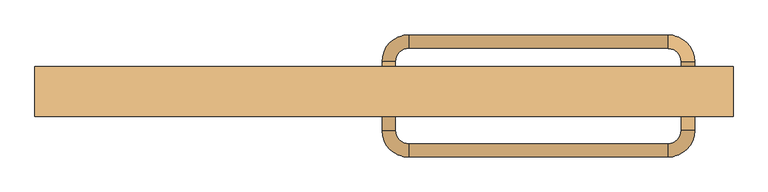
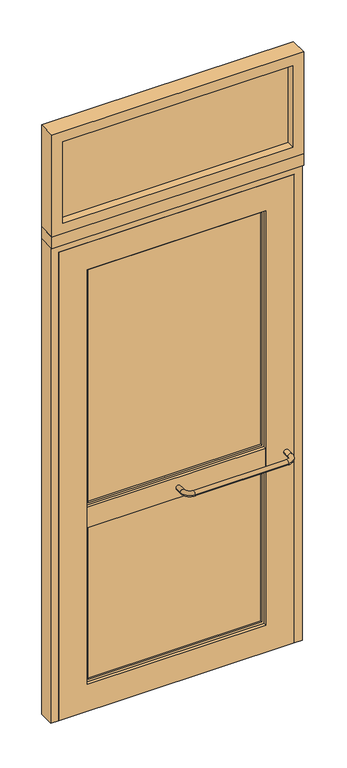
"""IFC4 building model written with IfcOpenShell, lengths in millimetres: door geometry, A3 Puerta batiente exterior VF superior : A3.2 Puerta batiente simple-exterior 105X260."""

from ifc_helpers import new_model, si_unit, point, frame, origin, place, context, project, spatial, polyline, circle_curve, ellipse_curve, trimmed, outline, extrude, source, transform, mapped, element, save
from ifc_brep_helpers import plane_surface, cylinder_surface, revolved_surface, advanced_brep


def door_3bfb12fa(model_context):
    return source(origin(), model_context, "Body", "SolidModel", [
        advanced_brep(
        [(17.0, 11.0, 855.0), (-3.0, 11.0, 855.0), (17.0, 41.0, 855.0), (-3.0, 41.0, 855.0), (37.0, 61.0, 855.0), (37.0, 81.0, 855.0), (427.0, 61.0, 855.0), (427.0, 81.0, 855.0), (447.0, 41.0, 855.0), (467.0, 41.0, 855.0), (447.0, 11.0, 855.0), (467.0, 11.0, 855.0)],
        [
            (0, 1, circle_curve(frame((7.0, 11.0, 855.0), z_axis=(0.0, -1.0, 0.0), x_axis=(-1.0, 0.0, 0.0)), 10.0)),
            (1, 0, circle_curve(frame((7.0, 11.0, 855.0), z_axis=(0.0, -1.0, 0.0), x_axis=(-1.0, 0.0, 0.0)), 10.0)),
            (0, 2),
            (2, 3, circle_curve(frame((7.0, 41.0, 855.0), z_axis=(0.0, -1.0, 0.0), x_axis=(-1.0, 0.0, 0.0)), 10.0)),
            (3, 1),
            (3, 2, circle_curve(frame((7.0, 41.0, 855.0), z_axis=(0.0, -1.0, 0.0), x_axis=(-1.0, 0.0, 0.0)), 10.0)),
            (4, 5, circle_curve(frame((37.0, 71.0, 855.0), z_axis=(-1.0, 0.0, 0.0), x_axis=(0.0, 1.0, 0.0)), 10.0)),
            (5, 3, circle_curve(frame((37.0, 41.0, 855.0), z_axis=(0.0, 0.0, 1.0), x_axis=(-1.0, 0.0, 0.0)), 40.0)),
            (2, 4, circle_curve(frame((37.0, 41.0, 855.0), z_axis=(0.0, 0.0, -1.0), x_axis=(-1.0, 0.0, 0.0)), 20.0)),
            (5, 4, circle_curve(frame((37.0, 71.0, 855.0), z_axis=(-1.0, 0.0, 0.0), x_axis=(0.0, 1.0, 0.0)), 10.0)),
            (4, 6),
            (6, 7, circle_curve(frame((427.0, 71.0, 855.0), z_axis=(-1.0, 0.0, 0.0), x_axis=(0.0, 1.0, 0.0)), 10.0)),
            (7, 5),
            (7, 6, circle_curve(frame((427.0, 71.0, 855.0), z_axis=(-1.0, 0.0, 0.0), x_axis=(0.0, 1.0, 0.0)), 10.0)),
            (8, 9, circle_curve(frame((457.0, 41.0, 855.0), z_axis=(0.0, 1.0, 0.0), x_axis=(1.0, 0.0, 0.0)), 10.0)),
            (9, 7, circle_curve(frame((427.0, 41.0, 855.0), z_axis=(0.0, 0.0, 1.0), x_axis=(0.0, 1.0, 0.0)), 40.0)),
            (6, 8, circle_curve(frame((427.0, 41.0, 855.0), z_axis=(0.0, 0.0, -1.0), x_axis=(0.0, 1.0, 0.0)), 20.0)),
            (9, 8, circle_curve(frame((457.0, 41.0, 855.0), z_axis=(0.0, 1.0, 0.0), x_axis=(1.0, 0.0, 0.0)), 10.0)),
            (10, 11, circle_curve(frame((457.0, 11.0, 855.0), z_axis=(0.0, -1.0, 0.0), x_axis=(1.0, 0.0, 0.0)), 10.0)),
            (11, 10, circle_curve(frame((457.0, 11.0, 855.0), z_axis=(0.0, -1.0, 0.0), x_axis=(1.0, 0.0, 0.0)), 10.0)),
            (8, 10),
            (11, 9),
        ],
        [
            plane_surface(frame((7.0, 11.0, 855.0), z_axis=(0.0, -1.0, 0.0), x_axis=(0.0, 0.0, 1.0))),
            cylinder_surface(frame((7.0, 11.0, 855.0), z_axis=(0.0, -1.0, 0.0), x_axis=(-1.0, 0.0, 0.0)), 10.0),
            revolved_surface(trimmed(ellipse_curve(frame((7.0, 41.0, 855.0), z_axis=(0.0, 1.0, 0.0), x_axis=(-1.0, 0.0, 0.0)), 10.0, 10.0), [point((-3.0, 41.0, 855.0))], [point((17.0, 41.0, 855.0))], True, "CARTESIAN"), (37.0, 41.0, 855.0), (0.0, 0.0, 1.0)),
            revolved_surface(trimmed(ellipse_curve(frame((7.0, 41.0, 855.0), z_axis=(0.0, 1.0, 0.0), x_axis=(-1.0, 0.0, 0.0)), 10.0, 10.0), [point((17.0, 41.0, 855.0))], [point((-3.0, 41.0, 855.0))], True, "CARTESIAN"), (37.0, 41.0, 855.0), (0.0, 0.0, 1.0)),
            cylinder_surface(frame((37.0, 71.0, 855.0), z_axis=(-1.0, 0.0, 0.0), x_axis=(0.0, 1.0, 0.0)), 10.0),
            revolved_surface(trimmed(ellipse_curve(frame((427.0, 71.0, 855.0), z_axis=(1.0, 0.0, 0.0), x_axis=(0.0, 1.0, 0.0)), 10.0, 10.0), [point((427.0, 81.0, 855.0))], [point((427.0, 61.0, 855.0))], True, "CARTESIAN"), (427.0, 41.0, 855.0), (0.0, 0.0, 1.0)),
            revolved_surface(trimmed(ellipse_curve(frame((427.0, 71.0, 855.0), z_axis=(1.0, 0.0, 0.0), x_axis=(0.0, 1.0, 0.0)), 10.0, 10.0), [point((427.0, 61.0, 855.0))], [point((427.0, 81.0, 855.0))], True, "CARTESIAN"), (427.0, 41.0, 855.0), (0.0, 0.0, 1.0)),
            plane_surface(frame((457.0, 11.0, 855.0), z_axis=(0.0, -1.0, 0.0), x_axis=(0.0, 0.0, 1.0))),
            cylinder_surface(frame((457.0, 41.0, 855.0), z_axis=(0.0, 1.0, 0.0), x_axis=(1.0, 0.0, 0.0)), 10.0),
        ],
        [
            (0, [[1, 2]]),
            (1, [[3, 4, 5, -1]]),
            (1, [[-5, 6, -3, -2]]),
            (2, [[7, 8, -4, 9]]),
            (3, [[10, -9, -6, -8]]),
            (4, [[11, 12, 13, -7]]),
            (4, [[-13, 14, -11, -10]]),
            (5, [[15, 16, -12, 17]]),
            (6, [[18, -17, -14, -16]]),
            (7, [[19, 20]]),
            (8, [[21, -20, 22, -15]]),
            (8, [[-22, -19, -21, -18]]),
        ],
    ),
        advanced_brep(
        [(17.0, -33.0, 855.0), (-3.0, -33.0, 855.0), (-3.0, -63.0, 855.0), (17.0, -63.0, 855.0), (37.0, -83.0, 855.0), (37.0, -103.0, 855.0), (427.0, -103.0, 855.0), (427.0, -83.0, 855.0), (447.0, -63.0, 855.0), (467.0, -63.0, 855.0), (447.0, -33.0, 855.0), (467.0, -33.0, 855.0)],
        [
            (0, 1, circle_curve(frame((7.0, -33.0, 855.0), z_axis=(0.0, 1.0, 0.0), x_axis=(-1.0, 0.0, 0.0)), 10.0)),
            (1, 0, circle_curve(frame((7.0, -33.0, 855.0), z_axis=(0.0, 1.0, 0.0), x_axis=(-1.0, 0.0, 0.0)), 10.0)),
            (1, 2),
            (2, 3, circle_curve(frame((7.0, -63.0, 855.0), z_axis=(0.0, 1.0, 0.0), x_axis=(-1.0, 0.0, 0.0)), 10.0)),
            (3, 0),
            (3, 2, circle_curve(frame((7.0, -63.0, 855.0), z_axis=(0.0, 1.0, 0.0), x_axis=(-1.0, 0.0, 0.0)), 10.0)),
            (4, 3, circle_curve(frame((37.0, -63.0, 855.0), z_axis=(0.0, 0.0, -1.0), x_axis=(-1.0, 0.0, 0.0)), 20.0)),
            (2, 5, circle_curve(frame((37.0, -63.0, 855.0), z_axis=(0.0, 0.0, 1.0), x_axis=(-1.0, 0.0, 0.0)), 40.0)),
            (5, 4, circle_curve(frame((37.0, -93.0, 855.0), z_axis=(-1.0, 0.0, 0.0), x_axis=(0.0, -1.0, 0.0)), 10.0)),
            (4, 5, circle_curve(frame((37.0, -93.0, 855.0), z_axis=(-1.0, 0.0, 0.0), x_axis=(0.0, -1.0, 0.0)), 10.0)),
            (5, 6),
            (6, 7, circle_curve(frame((427.0, -93.0, 855.0), z_axis=(-1.0, 0.0, 0.0), x_axis=(0.0, -1.0, 0.0)), 10.0)),
            (7, 4),
            (7, 6, circle_curve(frame((427.0, -93.0, 855.0), z_axis=(-1.0, 0.0, 0.0), x_axis=(0.0, -1.0, 0.0)), 10.0)),
            (8, 7, circle_curve(frame((427.0, -63.0, 855.0), z_axis=(0.0, 0.0, -1.0), x_axis=(0.0, -1.0, 0.0)), 20.0)),
            (6, 9, circle_curve(frame((427.0, -63.0, 855.0), z_axis=(0.0, 0.0, 1.0), x_axis=(0.0, -1.0, 0.0)), 40.0)),
            (9, 8, circle_curve(frame((457.0, -63.0, 855.0), z_axis=(0.0, -1.0, 0.0), x_axis=(1.0, 0.0, 0.0)), 10.0)),
            (8, 9, circle_curve(frame((457.0, -63.0, 855.0), z_axis=(0.0, -1.0, 0.0), x_axis=(1.0, 0.0, 0.0)), 10.0)),
            (10, 11, circle_curve(frame((457.0, -33.0, 855.0), z_axis=(0.0, 1.0, 0.0), x_axis=(1.0, 0.0, 0.0)), 10.0)),
            (11, 10, circle_curve(frame((457.0, -33.0, 855.0), z_axis=(0.0, 1.0, 0.0), x_axis=(1.0, 0.0, 0.0)), 10.0)),
            (9, 11),
            (10, 8),
        ],
        [
            plane_surface(frame((7.0, -33.0, 855.0), z_axis=(0.0, 1.0, 0.0), x_axis=(0.0, 0.0, 1.0))),
            cylinder_surface(frame((7.0, -33.0, 855.0), z_axis=(0.0, 1.0, 0.0), x_axis=(-1.0, 0.0, 0.0)), 10.0),
            revolved_surface(trimmed(ellipse_curve(frame((7.0, -63.0, 855.0), z_axis=(0.0, 1.0, 0.0), x_axis=(-1.0, 0.0, 0.0)), 10.0, 10.0), [point((-3.0, -63.0, 855.0))], [point((17.0, -63.0, 855.0))], True, "CARTESIAN"), (37.0, -63.0, 855.0), (0.0, 0.0, 1.0)),
            revolved_surface(trimmed(ellipse_curve(frame((7.0, -63.0, 855.0), z_axis=(0.0, 1.0, 0.0), x_axis=(-1.0, 0.0, 0.0)), 10.0, 10.0), [point((17.0, -63.0, 855.0))], [point((-3.0, -63.0, 855.0))], True, "CARTESIAN"), (37.0, -63.0, 855.0), (0.0, 0.0, 1.0)),
            cylinder_surface(frame((37.0, -93.0, 855.0), z_axis=(-1.0, 0.0, 0.0), x_axis=(0.0, -1.0, 0.0)), 10.0),
            revolved_surface(trimmed(ellipse_curve(frame((427.0, -93.0, 855.0), z_axis=(-1.0, 0.0, 0.0), x_axis=(0.0, -1.0, 0.0)), 10.0, 10.0), [point((427.0, -103.0, 855.0))], [point((427.0, -83.0, 855.0))], True, "CARTESIAN"), (427.0, -63.0, 855.0), (0.0, 0.0, 1.0)),
            revolved_surface(trimmed(ellipse_curve(frame((427.0, -93.0, 855.0), z_axis=(-1.0, 0.0, 0.0), x_axis=(0.0, -1.0, 0.0)), 10.0, 10.0), [point((427.0, -83.0, 855.0))], [point((427.0, -103.0, 855.0))], True, "CARTESIAN"), (427.0, -63.0, 855.0), (0.0, 0.0, 1.0)),
            plane_surface(frame((457.0, -33.0, 855.0), z_axis=(0.0, 1.0, 0.0), x_axis=(0.0, 0.0, 1.0))),
            cylinder_surface(frame((457.0, -63.0, 855.0), z_axis=(0.0, -1.0, 0.0), x_axis=(1.0, 0.0, 0.0)), 10.0),
        ],
        [
            (0, [[1, 2]]),
            (1, [[-2, 3, 4, 5]]),
            (1, [[-1, -5, 6, -3]]),
            (2, [[7, -4, 8, 9]]),
            (3, [[-8, -6, -7, 10]]),
            (4, [[-9, 11, 12, 13]]),
            (4, [[-10, -13, 14, -11]]),
            (5, [[15, -12, 16, 17]]),
            (6, [[-16, -14, -15, 18]]),
            (7, [[19, 20]]),
            (8, [[-17, 21, -19, 22]]),
            (8, [[-18, -22, -20, -21]]),
        ],
    ),
        extrude(outline(polyline([(525.0, 33.0), (525.0, -42.0), (-525.0, -42.0), (-525.0, 33.0), (525.0, 33.0)])), frame((0.0, 0.0, 2100.0), z_axis=(0.0, 0.0, 1.0), x_axis=(1.0, 0.0, 0.0)), (0.0, 0.0, 1.0), 50.0),
        extrude(outline(polyline([(2100.0, 525.0), (2100.0, -525.0), (0.0, -525.0), (0.0, -492.0), (2067.0, -492.0), (2067.0, 492.0), (0.0, 492.0), (0.0, 525.0), (2100.0, 525.0)])), frame((0.0, -33.0, 0.0), z_axis=(0.0, 1.0, 0.0), x_axis=(0.0, 0.0, 1.0)), (0.0, 0.0, 1.0), 66.0),
        extrude(outline(polyline([(2067.0, -492.0), (0.0, -492.0), (0.0, 492.0), (2067.0, 492.0), (2067.0, -492.0)]), holes=[polyline([(1947.0, -372.0), (1947.0, 372.0), (120.0, 372.0), (120.0, -372.0), (1947.0, -372.0)])]), frame((0.0, -33.0, 0.0), z_axis=(0.0, 1.0, 0.0), x_axis=(0.0, 0.0, 1.0)), (0.0, 0.0, 1.0), 44.0),
        extrude(outline(polyline([(372.0, 11.0), (372.0, -33.0), (-372.0, -33.0), (-372.0, 11.0), (372.0, 11.0)])), frame((0.0, 0.0, 810.0), z_axis=(0.0, 0.0, 1.0), x_axis=(1.0, 0.0, 0.0)), (0.0, 0.0, 1.0), 90.0),
        extrude(outline(polyline([(1947.0, -372.0), (900.0, -372.0), (900.0, 372.0), (1947.0, 372.0), (1947.0, -372.0)]), holes=[polyline([(1937.0, -362.0), (1937.0, 362.0), (910.0, 362.0), (910.0, -362.0), (1937.0, -362.0)])]), frame((0.0, -21.0, 0.0), z_axis=(0.0, 1.0, 0.0), x_axis=(0.0, 0.0, 1.0)), (0.0, 0.0, 1.0), 20.0),
        extrude(outline(polyline([(810.0, -372.0), (120.0, -372.0), (120.0, 372.0), (810.0, 372.0), (810.0, -372.0)]), holes=[polyline([(800.0, -362.0), (800.0, 362.0), (130.0, 362.0), (130.0, -362.0), (800.0, -362.0)])]), frame((0.0, -21.0, 0.0), z_axis=(0.0, 1.0, 0.0), x_axis=(0.0, 0.0, 1.0)), (0.0, 0.0, 1.0), 20.0),
        extrude(outline(polyline([(362.0, -8.0), (362.0, -14.0), (-362.0, -14.0), (-362.0, -8.0), (362.0, -8.0)])), frame((0.0, 0.0, 910.0), z_axis=(0.0, 0.0, 1.0), x_axis=(1.0, 0.0, 0.0)), (0.0, 0.0, 1.0), 1027.0),
        extrude(outline(polyline([(362.0, -8.0), (362.0, -14.0), (-362.0, -14.0), (-362.0, -8.0), (362.0, -8.0)])), frame((0.0, 0.0, 130.0), z_axis=(0.0, 0.0, 1.0), x_axis=(1.0, 0.0, 0.0)), (0.0, 0.0, 1.0), 670.0),
        extrude(outline(polyline([(480.0, -1.5), (480.0, -7.5), (-480.0, -7.5), (-480.0, -1.5), (480.0, -1.5)])), frame((0.0, 0.0, 2195.0), z_axis=(0.0, 0.0, 1.0), x_axis=(1.0, 0.0, 0.0)), (0.0, 0.0, 1.0), 360.0),
        extrude(outline(polyline([(2600.0, -525.0), (2150.0, -525.0), (2150.0, 525.0), (2600.0, 525.0), (2600.0, -525.0)]), holes=[polyline([(2555.0, -480.0), (2555.0, 480.0), (2195.0, 480.0), (2195.0, -480.0), (2555.0, -480.0)])]), frame((0.0, -42.0, 0.0), z_axis=(0.0, 1.0, 0.0), x_axis=(0.0, 0.0, 1.0)), (0.0, 0.0, 1.0), 75.0),
    ])


if __name__ == "__main__":
    model = new_model("IFC4")
    model_context = context("Model", 3, world=origin())
    ifc_project = project(units=[si_unit("LENGTHUNIT", "METRE", prefix="MILLI")], contexts=[model_context])
    site = spatial("IfcSite", under=ifc_project)
    building = spatial("IfcBuilding", under=site)
    placement = place(None, origin())
    door_shape = door_3bfb12fa(model_context)
    element("IfcDoor", 1, ObjectType="A3 Puerta batiente exterior VF superior : A3.2 Puerta batiente simple-exterior 105X260", at=placement, inside=building, context=model_context, shape_type="MappedRepresentation", body=[
        mapped(door_shape, transform((0.0, 0.0, 0.0), x_axis=(1.0, 0.0, 0.0), y_axis=(0.0, 1.0, 0.0), z_axis=(0.0, 0.0, 1.0))),
    ])
    save(model, "model.ifc")
